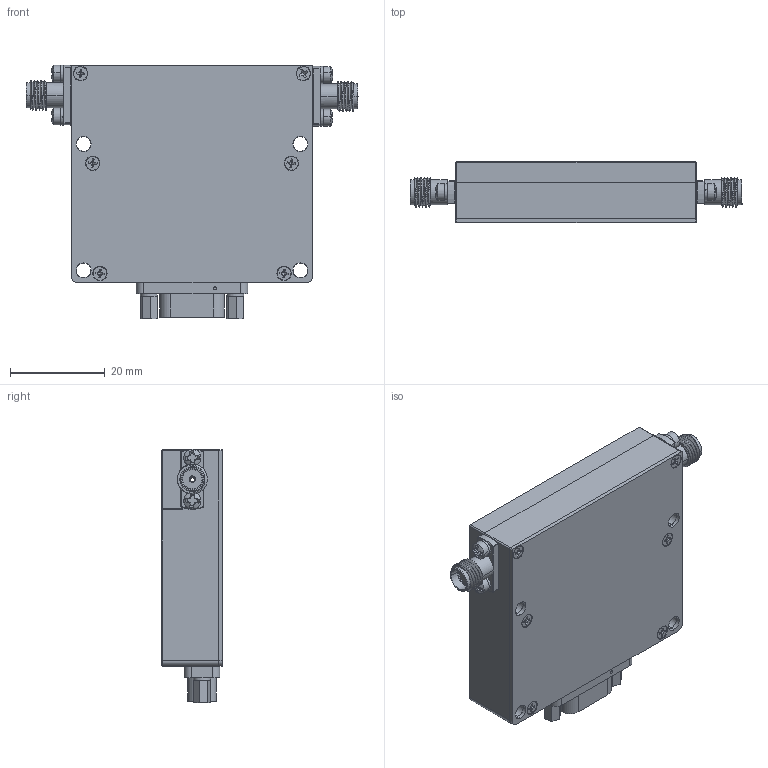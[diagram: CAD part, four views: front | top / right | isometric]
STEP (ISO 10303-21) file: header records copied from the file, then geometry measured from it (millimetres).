
FILE_DESCRIPTION (( 'STEP AP214' ), '1' );
FILE_NAME ('DTA-2G18G-60-12-CD-1-20DBM.STEP', '2024-10-24T15:04:45', ( '' ), ( '' ), 'SwSTEP 2.0', 'SolidWorks 2024', '' );
FILE_SCHEMA (( 'AUTOMOTIVE_DESIGN' ));
Length unit declared in the file: inch
Products named in the file (1): DTA-2G18G-60-12-CD-1-20DBM
Bounding box: 70 x 12.85 x 53.5 mm (x, y, z)
Surface area: 13761.5 mm2 (no closed solid volume)
Topology: 0 solids, 127 shells, 1186 faces, 4356 edges, 3310 vertices
Faces by surface type: plane 693, cylinder 208, bspline 183, cone 52, torus 34, sphere 16
Entity records: 72578 total; most frequent: CARTESIAN_POINT 24583, ORIENTED_EDGE 6728, DIRECTION 6348, EDGE_CURVE 4336, VERTEX_POINT 3310, VECTOR 2514, LINE 2514, AXIS2_PLACEMENT_3D 1917
